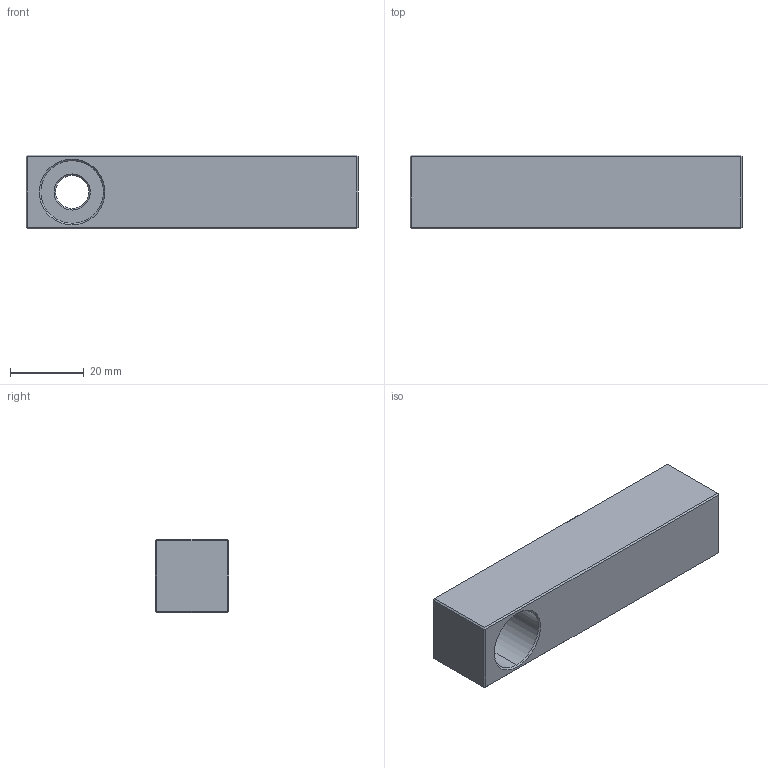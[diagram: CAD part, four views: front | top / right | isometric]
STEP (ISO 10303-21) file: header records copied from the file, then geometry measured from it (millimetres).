
FILE_DESCRIPTION (( 'STEP AP203' ), '1' );
FILE_NAME ('WHZ0320-T.step', '2010-04-21T15:41:11', ( ' ' ), ( ' ' ), 'SwSTEP 2.0', 'SolidWorks 2009', '' );
FILE_SCHEMA (( 'CONFIG_CONTROL_DESIGN' ));
Length unit declared in the file: millimetre
Products named in the file (1): WHZ0320-T
Bounding box: 90 x 20 x 20 mm (x, y, z)
Volume: 32390.3 mm3; surface area: 8642.6 mm2
Topology: 1 solids, 1 shells, 37 faces, 72 edges, 38 vertices
Faces by surface type: plane 27, cone 6, cylinder 4
Entity records: 981 total; most frequent: DIRECTION 162, CARTESIAN_POINT 148, ORIENTED_EDGE 144, EDGE_CURVE 72, VECTOR 58, LINE 58, AXIS2_PLACEMENT_3D 52, EDGE_LOOP 40
